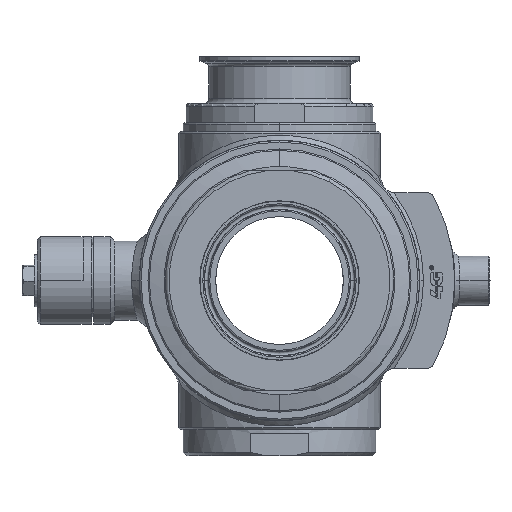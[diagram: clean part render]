
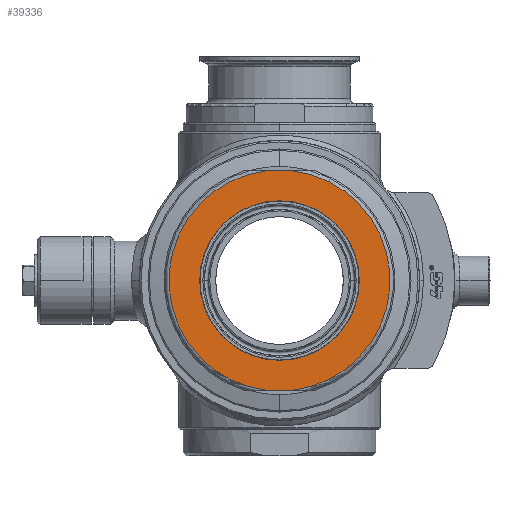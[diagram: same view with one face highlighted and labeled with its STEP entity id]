
A CAD part, left-side view. The second image highlights one B-rep face of the part: STEP entity #39336.
In plain terms, the highlighted planar face has unit normal (-1, 0, 0).
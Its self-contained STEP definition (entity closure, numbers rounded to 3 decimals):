
#715=CARTESIAN_POINT('',(-101.,-7.921,-62.5));
#753=CARTESIAN_POINT('',(-101.,7.921,62.5));
#923=CARTESIAN_POINT('',(-101.,0.,0.));
#924=DIRECTION('',(1.,0.,0.));
#925=DIRECTION('',(0.,0.126,-0.992));
#926=AXIS2_PLACEMENT_3D('',#923,#924,#925);
#931=DIRECTION('',(0.,-1.,0.));
#932=VECTOR('',#931,15.843);
#933=CARTESIAN_POINT('',(-101.,7.921,62.5));
#934=LINE('',#933,#932);
#938=CARTESIAN_POINT('',(-101.,0.,0.));
#939=DIRECTION('',(1.,0.,0.));
#940=DIRECTION('',(0.,-0.126,0.992));
#941=AXIS2_PLACEMENT_3D('',#938,#939,#940);
#946=DIRECTION('',(0.,-1.,0.));
#947=VECTOR('',#946,15.843);
#948=CARTESIAN_POINT('',(-101.,7.921,-62.5));
#949=LINE('',#948,#947);
#953=CARTESIAN_POINT('',(-101.,0.,0.));
#954=DIRECTION('',(-1.,0.,0.));
#955=DIRECTION('',(0.,-1.,0.));
#956=AXIS2_PLACEMENT_3D('',#953,#954,#955);
#961=CARTESIAN_POINT('',(-101.,0.,0.));
#962=DIRECTION('',(-1.,0.,0.));
#963=DIRECTION('',(0.,1.,0.));
#964=AXIS2_PLACEMENT_3D('',#961,#962,#963);
#37698=VERTEX_POINT('',#753);
#37699=CARTESIAN_POINT('',(-101.,7.921,-62.5));
#37700=VERTEX_POINT('',#37699);
#37703=VERTEX_POINT('',#715);
#37704=CARTESIAN_POINT('',(-101.,-7.921,62.5));
#37705=VERTEX_POINT('',#37704);
#37707=CARTESIAN_POINT('',(-101.,-42.25,0.));
#37708=CARTESIAN_POINT('',(-101.,42.25,0.));
#37709=VERTEX_POINT('',#37707);
#37710=VERTEX_POINT('',#37708);
#39319=CARTESIAN_POINT('',(-101.,0.,0.));
#39320=DIRECTION('',(-1.,0.,0.));
#39321=DIRECTION('',(0.,-1.,0.));
#39322=AXIS2_PLACEMENT_3D('',#39319,#39320,#39321);
#39323=PLANE('',#39322);
#39324=ORIENTED_EDGE('',*,*,#39174,.T.);
#39325=ORIENTED_EDGE('',*,*,#39208,.T.);
#39326=ORIENTED_EDGE('',*,*,#39305,.T.);
#39327=ORIENTED_EDGE('',*,*,#39142,.F.);
#39328=EDGE_LOOP('',(#39324,#39325,#39326,#39327));
#39329=FACE_OUTER_BOUND('',#39328,.F.);
#39331=ORIENTED_EDGE('',*,*,#39330,.T.);
#39333=ORIENTED_EDGE('',*,*,#39332,.T.);
#39334=EDGE_LOOP('',(#39331,#39333));
#39335=FACE_BOUND('',#39334,.F.);
#39336=ADVANCED_FACE('',(#39329,#39335),#39323,.T.);
#927=CIRCLE('',#926,63.);
#942=CIRCLE('',#941,63.);
#957=CIRCLE('',#956,42.25);
#965=CIRCLE('',#964,42.25);
#39142=EDGE_CURVE('',#37700,#37703,#949,.T.);
#39174=EDGE_CURVE('',#37700,#37698,#927,.T.);
#39208=EDGE_CURVE('',#37698,#37705,#934,.T.);
#39305=EDGE_CURVE('',#37705,#37703,#942,.T.);
#39330=EDGE_CURVE('',#37709,#37710,#957,.T.);
#39332=EDGE_CURVE('',#37710,#37709,#965,.T.);
